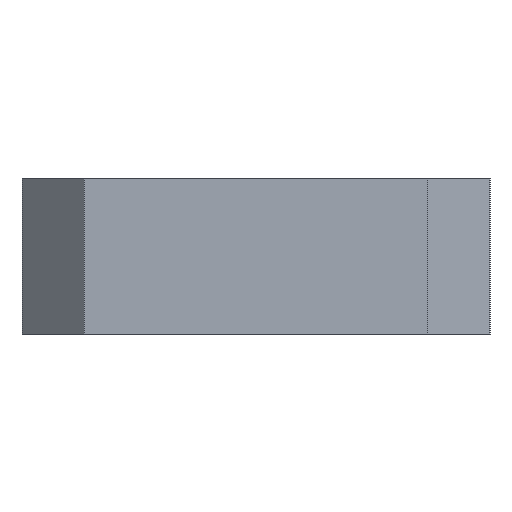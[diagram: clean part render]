
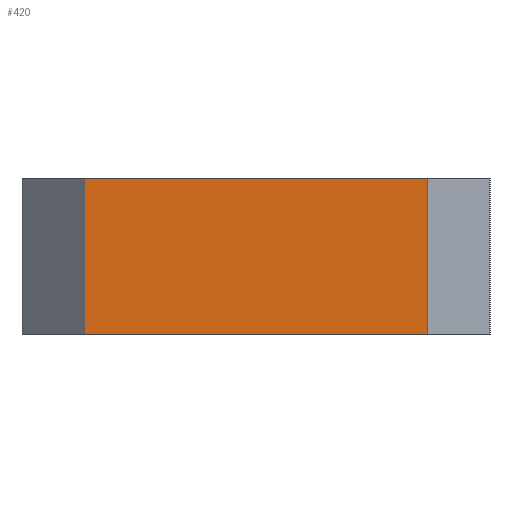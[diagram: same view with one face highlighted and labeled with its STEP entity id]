
A CAD part, left-side view. The second image highlights one B-rep face of the part: STEP entity #420.
In plain terms, the highlighted planar face has unit normal (-1, 0, 0).
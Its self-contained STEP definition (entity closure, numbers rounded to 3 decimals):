
#13=DIRECTION('',(0.,-1.,0.));
#14=VECTOR('',#13,11.);
#15=CARTESIAN_POINT('',(0.,13.,0.));
#16=LINE('',#15,#14);
#103=DIRECTION('',(0.,-1.,0.));
#104=VECTOR('',#103,11.);
#105=CARTESIAN_POINT('',(0.,13.,5.));
#106=LINE('',#105,#104);
#141=DIRECTION('',(0.,0.,-1.));
#142=VECTOR('',#141,5.);
#143=CARTESIAN_POINT('',(0.,13.,5.));
#144=LINE('',#143,#142);
#145=DIRECTION('',(0.,0.,-1.));
#146=VECTOR('',#145,5.);
#147=CARTESIAN_POINT('',(0.,2.,5.));
#148=LINE('',#147,#146);
#165=CARTESIAN_POINT('',(0.,13.,0.));
#167=VERTEX_POINT('',#165);
#171=CARTESIAN_POINT('',(0.,13.,5.));
#172=VERTEX_POINT('',#171);
#174=CARTESIAN_POINT('',(0.,2.,0.));
#176=VERTEX_POINT('',#174);
#177=CARTESIAN_POINT('',(0.,2.,5.));
#178=VERTEX_POINT('',#177);
#409=CARTESIAN_POINT('',(0.,15.,0.));
#410=DIRECTION('',(-1.,0.,0.));
#411=DIRECTION('',(0.,-1.,0.));
#412=AXIS2_PLACEMENT_3D('',#409,#410,#411);
#413=PLANE('',#412);
#414=ORIENTED_EDGE('',*,*,#326,.F.);
#415=ORIENTED_EDGE('',*,*,#293,.T.);
#416=ORIENTED_EDGE('',*,*,#402,.T.);
#417=ORIENTED_EDGE('',*,*,#204,.F.);
#418=EDGE_LOOP('',(#414,#415,#416,#417));
#419=FACE_OUTER_BOUND('',#418,.F.);
#420=ADVANCED_FACE('',(#419),#413,.T.);
#204=EDGE_CURVE('',#167,#176,#16,.T.);
#293=EDGE_CURVE('',#172,#178,#106,.T.);
#326=EDGE_CURVE('',#172,#167,#144,.T.);
#402=EDGE_CURVE('',#178,#176,#148,.T.);
